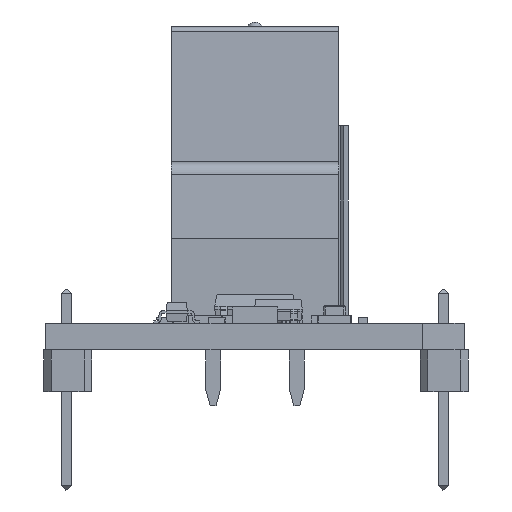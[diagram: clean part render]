
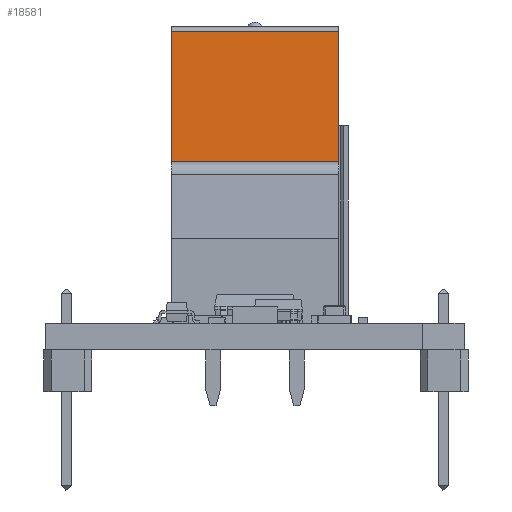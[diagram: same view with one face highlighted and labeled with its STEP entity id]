
A CAD part, front view. The second image highlights one B-rep face of the part: STEP entity #18581.
In plain terms, the highlighted planar face has unit normal (0, -0.999, 0.035) as drawn and (-0.999, 0.035, 0) by its records, which use the part's own axes.
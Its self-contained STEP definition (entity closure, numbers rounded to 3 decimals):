
#18581 = ADVANCED_FACE('',(#18582),#18616,.T.);
#18582 = FACE_BOUND('',#18583,.T.);
#18583 = EDGE_LOOP('',(#18584,#18594,#18602,#18610));
#18584 = ORIENTED_EDGE('',*,*,#18585,.F.);
#18585 = EDGE_CURVE('',#18586,#18588,#18590,.T.);
#18586 = VERTEX_POINT('',#18587);
#18587 = CARTESIAN_POINT('',(-43.425,93.196,-12.62));
#18588 = VERTEX_POINT('',#18589);
#18589 = CARTESIAN_POINT('',(-43.425,93.196,-2.46));
#18590 = LINE('',#18591,#18592);
#18591 = CARTESIAN_POINT('',(-43.425,93.196,-7.58));
#18592 = VECTOR('',#18593,1.);
#18593 = DIRECTION('',(0.,0.,1.));
#18594 = ORIENTED_EDGE('',*,*,#18595,.F.);
#18595 = EDGE_CURVE('',#18596,#18586,#18598,.T.);
#18596 = VERTEX_POINT('',#18597);
#18597 = CARTESIAN_POINT('',(-43.701,85.286,-12.62));
#18598 = LINE('',#18599,#18600);
#18599 = CARTESIAN_POINT('',(-46.679,0.,-12.62));
#18600 = VECTOR('',#18601,1.);
#18601 = DIRECTION('',(0.035,0.999,
    0.));
#18602 = ORIENTED_EDGE('',*,*,#18603,.F.);
#18603 = EDGE_CURVE('',#18604,#18596,#18606,.T.);
#18604 = VERTEX_POINT('',#18605);
#18605 = CARTESIAN_POINT('',(-43.701,85.286,-2.46));
#18606 = LINE('',#18607,#18608);
#18607 = CARTESIAN_POINT('',(-43.701,85.286,-10.));
#18608 = VECTOR('',#18609,1.);
#18609 = DIRECTION('',(0.,0.,-1.));
#18610 = ORIENTED_EDGE('',*,*,#18611,.F.);
#18611 = EDGE_CURVE('',#18588,#18604,#18612,.T.);
#18612 = LINE('',#18613,#18614);
#18613 = CARTESIAN_POINT('',(-46.679,0.,-2.46));
#18614 = VECTOR('',#18615,1.);
#18615 = DIRECTION('',(-0.035,-0.999,
    0.));
#18616 = PLANE('',#18617);
#18617 = AXIS2_PLACEMENT_3D('',#18618,#18619,#18620);
#18618 = CARTESIAN_POINT('',(-43.701,85.286,-10.));
#18619 = DIRECTION('',(-0.999,0.035,
    0.));
#18620 = DIRECTION('',(-0.035,-0.999,
    0.));
